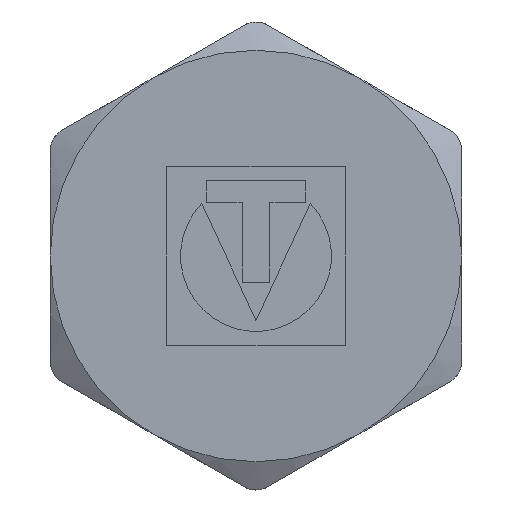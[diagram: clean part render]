
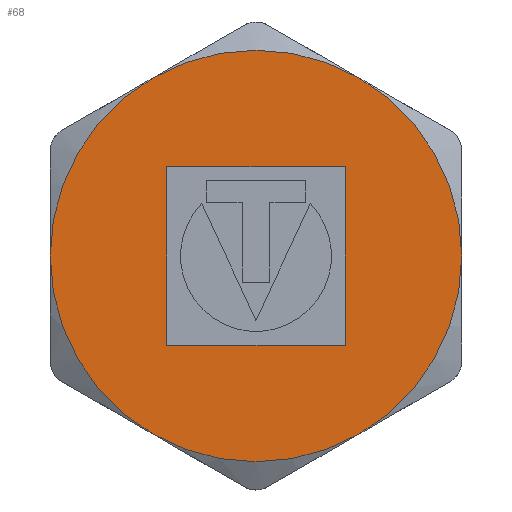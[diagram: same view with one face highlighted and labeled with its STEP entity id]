
A CAD part, front view. The second image highlights one B-rep face of the part: STEP entity #68.
In plain terms, the highlighted planar face has unit normal (0, -1, 0).
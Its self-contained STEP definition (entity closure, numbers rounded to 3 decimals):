
#68=ADVANCED_FACE('',(#266,#268),#270,.F.);
#266=FACE_BOUND('',#267,.T.);
#267=EDGE_LOOP('',(#514,#515,#516,#517,#518,#519));
#268=FACE_BOUND('',#269,.T.);
#269=EDGE_LOOP('',(#520,#521,#522,#523));
#270=PLANE('',#271);
#271=AXIS2_PLACEMENT_3D('',#272,#273,#274);
#272=CARTESIAN_POINT('',(0.,0.,0.));
#273=DIRECTION('',(0.,1.,0.));
#274=DIRECTION('',(-1.,0.,0.));
#514=ORIENTED_EDGE('',*,*,#663,.T.);
#515=ORIENTED_EDGE('',*,*,#662,.T.);
#516=ORIENTED_EDGE('',*,*,#661,.T.);
#517=ORIENTED_EDGE('',*,*,#660,.T.);
#518=ORIENTED_EDGE('',*,*,#665,.T.);
#519=ORIENTED_EDGE('',*,*,#664,.T.);
#520=ORIENTED_EDGE('',*,*,#666,.F.);
#521=ORIENTED_EDGE('',*,*,#667,.F.);
#522=ORIENTED_EDGE('',*,*,#668,.F.);
#523=ORIENTED_EDGE('',*,*,#669,.F.);
#660=EDGE_CURVE('',#752,#792,#795,.F.);
#661=EDGE_CURVE('',#760,#752,#796,.F.);
#662=EDGE_CURVE('',#770,#760,#797,.F.);
#663=EDGE_CURVE('',#778,#770,#798,.F.);
#664=EDGE_CURVE('',#786,#778,#799,.F.);
#665=EDGE_CURVE('',#792,#786,#800,.F.);
#666=EDGE_CURVE('',#801,#802,#803,.F.);
#667=EDGE_CURVE('',#804,#801,#805,.F.);
#668=EDGE_CURVE('',#806,#804,#807,.F.);
#669=EDGE_CURVE('',#802,#806,#808,.F.);
#752=VERTEX_POINT('',#1013);
#760=VERTEX_POINT('',#1112);
#770=VERTEX_POINT('',#1215);
#778=VERTEX_POINT('',#1333);
#786=VERTEX_POINT('',#1432);
#792=VERTEX_POINT('',#1527);
#795=CIRCLE('',#1585,26.5);
#796=CIRCLE('',#1589,26.5);
#797=CIRCLE('',#1593,26.5);
#798=CIRCLE('',#1597,26.5);
#799=CIRCLE('',#1601,26.5);
#800=CIRCLE('',#1605,26.5);
#801=VERTEX_POINT('',#1609);
#802=VERTEX_POINT('',#1610);
#803=LINE('',#1611,#1612);
#804=VERTEX_POINT('',#1614);
#805=LINE('',#1615,#1616);
#806=VERTEX_POINT('',#1618);
#807=LINE('',#1619,#1620);
#808=LINE('',#1622,#1623);
#1013=CARTESIAN_POINT('',(-13.25,0.,22.95));
#1112=CARTESIAN_POINT('',(13.25,0.,22.95));
#1215=CARTESIAN_POINT('',(26.5,0.,0.));
#1333=CARTESIAN_POINT('',(13.25,0.,-22.95));
#1432=CARTESIAN_POINT('',(-13.25,0.,-22.95));
#1527=CARTESIAN_POINT('',(-26.5,0.,0.));
#1585=AXIS2_PLACEMENT_3D('',#1586,#1587,#1588);
#1586=CARTESIAN_POINT('',(0.,0.,0.));
#1587=DIRECTION('',(0.,1.,0.));
#1588=DIRECTION('',(-1.,0.,0.));
#1589=AXIS2_PLACEMENT_3D('',#1590,#1591,#1592);
#1590=CARTESIAN_POINT('',(0.,0.,0.));
#1591=DIRECTION('',(0.,1.,0.));
#1592=DIRECTION('',(-0.5,0.,0.866));
#1593=AXIS2_PLACEMENT_3D('',#1594,#1595,#1596);
#1594=CARTESIAN_POINT('',(0.,0.,0.));
#1595=DIRECTION('',(0.,1.,0.));
#1596=DIRECTION('',(0.5,0.,0.866));
#1597=AXIS2_PLACEMENT_3D('',#1598,#1599,#1600);
#1598=CARTESIAN_POINT('',(0.,0.,0.));
#1599=DIRECTION('',(0.,1.,0.));
#1600=DIRECTION('',(1.,0.,0.));
#1601=AXIS2_PLACEMENT_3D('',#1602,#1603,#1604);
#1602=CARTESIAN_POINT('',(0.,0.,0.));
#1603=DIRECTION('',(0.,1.,0.));
#1604=DIRECTION('',(0.5,0.,-0.866));
#1605=AXIS2_PLACEMENT_3D('',#1606,#1607,#1608);
#1606=CARTESIAN_POINT('',(0.,0.,0.));
#1607=DIRECTION('',(0.,1.,0.));
#1608=DIRECTION('',(-0.5,0.,-0.866));
#1609=CARTESIAN_POINT('',(-11.5,0.,11.5));
#1610=CARTESIAN_POINT('',(-11.5,0.,-11.5));
#1611=CARTESIAN_POINT('',(-11.5,0.,-11.5));
#1612=VECTOR('',#1613,1.);
#1613=DIRECTION('',(0.,0.,1.));
#1614=CARTESIAN_POINT('',(11.505,0.,11.5));
#1615=CARTESIAN_POINT('',(-11.5,0.,11.5));
#1616=VECTOR('',#1617,1.);
#1617=DIRECTION('',(1.,0.,0.));
#1618=CARTESIAN_POINT('',(11.5,0.,-11.5));
#1619=CARTESIAN_POINT('',(11.505,0.,11.5));
#1620=VECTOR('',#1621,1.);
#1621=DIRECTION('',(0.,0.,-1.));
#1622=CARTESIAN_POINT('',(11.5,0.,-11.5));
#1623=VECTOR('',#1624,1.);
#1624=DIRECTION('',(-1.,0.,0.));
